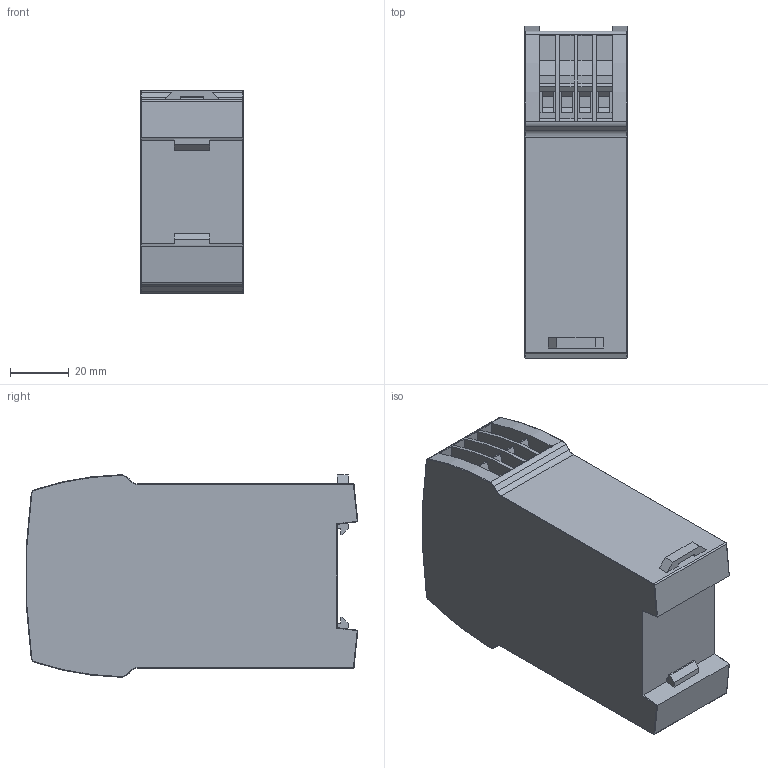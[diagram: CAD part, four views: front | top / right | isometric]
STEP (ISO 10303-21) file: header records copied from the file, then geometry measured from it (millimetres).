
FILE_DESCRIPTION (( 'STEP AP214' ), '1' );
FILE_NAME ('I538.STEP', '2016-01-12T13:11:48', ( 'inst' ), ( '' ), 'SwSTEP 2.0', 'SolidWorks 2015', '' );
FILE_SCHEMA (( 'AUTOMOTIVE_DESIGN' ));
Length unit declared in the file: millimetre
Products named in the file (1): I538
Bounding box: 35 x 113.26 x 69.14 mm (x, y, z)
Volume: 230184.8 mm3; surface area: 32248.7 mm2
Topology: 1 solids, 1 shells, 558 faces, 1475 edges, 970 vertices
Faces by surface type: plane 366, bspline 108, cylinder 54, torus 22, cone 8
Full cylindrical faces by diameter (mm): 4 x8
Entity records: 25995 total; most frequent: CARTESIAN_POINT 9392, ORIENTED_EDGE 2894, DIRECTION 2307, EDGE_CURVE 1447, VECTOR 1041, LINE 1041, VERTEX_POINT 958, AXIS2_PLACEMENT_3D 633
